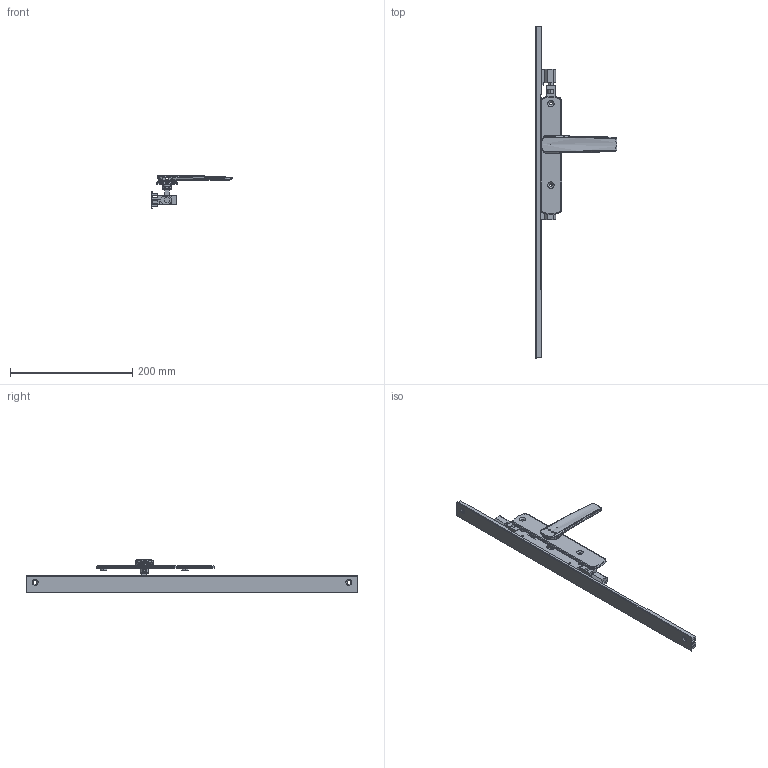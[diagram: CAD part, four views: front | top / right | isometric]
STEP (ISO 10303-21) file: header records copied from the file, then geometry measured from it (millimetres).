
FILE_DESCRIPTION (( 'STEP AP214' ), '1' );
FILE_NAME ('TPL-W-EU-604-U 06Nov2024.STEP', '2024-11-27T01:11:06', ( '' ), ( '' ), 'SwSTEP 2.0', 'SolidWorks 2023', '' );
FILE_SCHEMA (( 'AUTOMOTIVE_DESIGN' ));
Length unit declared in the file: millimetre
Products named in the file (18): Copy of COV-112-C Cover C TPLGen2 Lock body^TPL-W-EU-104 04Nov2024; Copy of Adapter CnE - simplfied^TPL-W-EU-104 04Nov2024_26mm backset; Copy of LKC-516 Escutcheon plate unkeyed 195mm long zinc - simplified^Copy of TPGen2 handle non-keyed short zinc - simplified_TPL-W-EU-104 04Nov2024; Copy of LKC-586 Spindle square 8mm with M4 hole^Copy of TPGen2 handle non-keyed short zinc - simplified_TPL-W-EU-104 04Nov2024_25mm; Copy of LKC-531-A Rod TPLGen2 machined bolt end^TPL-W-EU-104 04Nov2024_LKC-531-A-M003; Copy of LKC-584 Pivot body zinc - simplified^Copy of TPGen2 handle non-keyed short zinc - simplified_TPL-W-EU-104 04Nov2024; Copy of TPGen2 handle non-keyed short zinc - simplified^TPL-W-EU-104 04Nov2024_Right; Copy of TPLGen2 lock body non-keyed^Copy of TPLGen2 lock body non-keyed assembly_TPL-W-EU-104 04Nov2024; Bolt.step; Copy of LKC-505 Swing handle zinc - simplified^Copy of TPGen2 handle non-keyed short zinc - simplified_TPL-W-EU-104 04Nov2024; Bottom twinpoint transmission rod wood system^TPL-W-EU-104 04Nov2024_Standard Range 2891.7mm; TPL-W-EU-604-U 06Nov2024; COV-112-A Cover A suit TPLGen2 standard range^TPL-W-EU-104 04Nov2024_2870mm; Copy of TPLGen2 lock body non-keyed assembly^TPL-W-EU-104 04Nov2024_Bolts retracted; COV-112-B Cover B suit TPLGen2 standard range^TPL-W-EU-104 04Nov2024_2870mm; Copy of TPLGen2 push rod - simplified^Copy of TPLGen2 lock body non-keyed assembly_TPL-W-EU-104 04Nov2024_Female thread M10; Copy of Adapter DnF - simplfied^TPL-W-EU-104 04Nov2024_26mm backset; Copy of LKC-585 Rotator body zinc^Copy of TPGen2 handle non-keyed short zinc - simplified_TPL-W-EU-104 04Nov2024
Assembly tree (15 placements, depth 3):
  Bolt.step
  TPL-W-EU-604-U 06Nov2024
    Copy of TPLGen2 lock body non-keyed assembly^TPL-W-EU-104 04Nov2024_Bolts retracted
      Copy of TPLGen2 lock body non-keyed^Copy of TPLGen2 lock body non-keyed assembly_TPL-W-EU-104 04Nov2024
      Copy of TPLGen2 push rod - simplified^Copy of TPLGen2 lock body non-keyed assembly_TPL-W-EU-104 04Nov2024_Female thread M10  x2
    Copy of TPGen2 handle non-keyed short zinc - simplified^TPL-W-EU-104 04Nov2024_Right
      Copy of LKC-516 Escutcheon plate unkeyed 195mm long zinc - simplified^Copy of TPGen2 handle non-keyed short zinc - simplified_TPL-W-EU-104 04Nov2024
      Copy of LKC-505 Swing handle zinc - simplified^Copy of TPGen2 handle non-keyed short zinc - simplified_TPL-W-EU-104 04Nov2024
      Copy of LKC-585 Rotator body zinc^Copy of TPGen2 handle non-keyed short zinc - simplified_TPL-W-EU-104 04Nov2024
      Copy of LKC-586 Spindle square 8mm with M4 hole^Copy of TPGen2 handle non-keyed short zinc - simplified_TPL-W-EU-104 04Nov2024_25mm
      Copy of LKC-584 Pivot body zinc - simplified^Copy of TPGen2 handle non-keyed short zinc - simplified_TPL-W-EU-104 04Nov2024
    Copy of COV-112-C Cover C TPLGen2 Lock body^TPL-W-EU-104 04Nov2024
    Bottom twinpoint transmission rod wood system^TPL-W-EU-104 04Nov2024_Standard Range 2891.7mm
    Copy of LKC-531-A Rod TPLGen2 machined bolt end^TPL-W-EU-104 04Nov2024_LKC-531-A-M003
    Copy of Adapter DnF - simplfied^TPL-W-EU-104 04Nov2024_26mm backset
    Copy of Adapter CnE - simplfied^TPL-W-EU-104 04Nov2024_26mm backset
  COV-112-A Cover A suit TPLGen2 standard range^TPL-W-EU-104 04Nov2024_2870mm
  COV-112-B Cover B suit TPLGen2 standard range^TPL-W-EU-104 04Nov2024_2870mm
Bounding box: 134.12 x 544 x 53.86 mm (x, y, z)
Volume: 208630.6 mm3; surface area: 119857.1 mm2
Topology: 13 solids, 13 shells, 857 faces, 2119 edges, 1317 vertices
Faces by surface type: plane 310, bspline 241, cylinder 186, cone 66, torus 46, sphere 8
Entity records: 30895 total; most frequent: CARTESIAN_POINT 12601, ORIENTED_EDGE 4046, DIRECTION 3230, EDGE_CURVE 2023, VERTEX_POINT 1257, AXIS2_PLACEMENT_3D 1164, EDGE_LOOP 904, LINE 902
